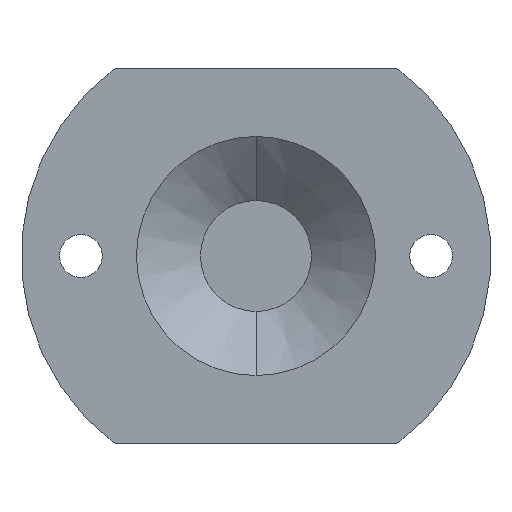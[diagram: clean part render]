
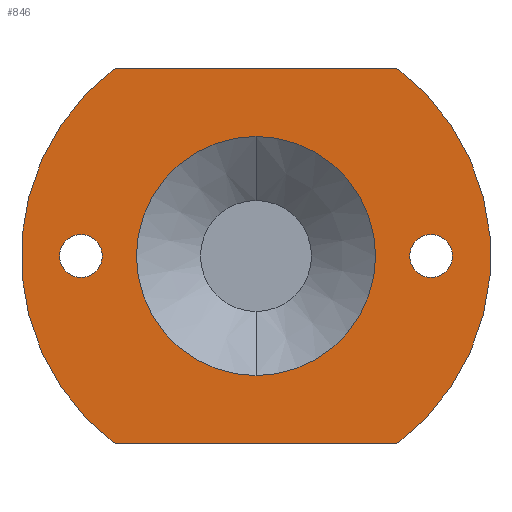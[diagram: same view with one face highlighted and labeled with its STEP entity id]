
A CAD part, front view. The second image highlights one B-rep face of the part: STEP entity #846.
In plain terms, the highlighted planar face has unit normal (0, -1, 0).
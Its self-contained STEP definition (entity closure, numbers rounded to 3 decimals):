
#1 = CIRCLE ( 'NONE', #5, 14. ) ;
#5 = AXIS2_PLACEMENT_3D ( 'NONE', #59, #622, #407 ) ;
#6 = DIRECTION ( 'NONE',  ( 0., 0., -1. ) ) ;
#12 = DIRECTION ( 'NONE',  ( 0., 0., -1. ) ) ;
#13 = CARTESIAN_POINT ( 'NONE',  ( -7.841, 0., -36.08 ) ) ;
#14 = CARTESIAN_POINT ( 'NONE',  ( -3.841, 0., -14.08 ) ) ;
#20 = DIRECTION ( 'NONE',  ( -1., 0., 0. ) ) ;
#28 = CARTESIAN_POINT ( 'NONE',  ( -7.841, 0., 7.92 ) ) ;
#32 = CARTESIAN_POINT ( 'NONE',  ( -40.841, 0., 7.92 ) ) ;
#33 = VERTEX_POINT ( 'NONE', #575 ) ;
#59 = CARTESIAN_POINT ( 'NONE',  ( -24.341, 0., -14.08 ) ) ;
#65 = CARTESIAN_POINT ( 'NONE',  ( -44.841, 0., -14.08 ) ) ;
#77 = DIRECTION ( 'NONE',  ( 0., 0., -1. ) ) ;
#99 = CARTESIAN_POINT ( 'NONE',  ( -24.341, 0., 7.92 ) ) ;
#100 = VERTEX_POINT ( 'NONE', #28 ) ;
#101 = CARTESIAN_POINT ( 'NONE',  ( -3.841, 0., -14.08 ) ) ;
#110 = FACE_OUTER_BOUND ( 'NONE', #112, .T. ) ;
#112 = EDGE_LOOP ( 'NONE', ( #480, #683, #613, #602 ) ) ;
#117 = DIRECTION ( 'NONE',  ( 0., 0., -1. ) ) ;
#119 = ORIENTED_EDGE ( 'NONE', *, *, #218, .T. ) ;
#123 = EDGE_CURVE ( 'NONE', #248, #843, #734, .T. ) ;
#132 = CARTESIAN_POINT ( 'NONE',  ( -40.841, 0., -36.08 ) ) ;
#170 = CIRCLE ( 'NONE', #653, 2.5 ) ;
#178 = ORIENTED_EDGE ( 'NONE', *, *, #831, .T. ) ;
#218 = EDGE_CURVE ( 'NONE', #422, #518, #328, .T. ) ;
#223 = CARTESIAN_POINT ( 'NONE',  ( -3.841, 0., -16.58 ) ) ;
#236 = CARTESIAN_POINT ( 'NONE',  ( -24.341, 0., -36.08 ) ) ;
#248 = VERTEX_POINT ( 'NONE', #550 ) ;
#251 = AXIS2_PLACEMENT_3D ( 'NONE', #534, #873, #117 ) ;
#260 = LINE ( 'NONE', #236, #385 ) ;
#261 = CARTESIAN_POINT ( 'NONE',  ( -44.841, 0., -14.08 ) ) ;
#262 = EDGE_CURVE ( 'NONE', #518, #422, #877, .T. ) ;
#275 = VERTEX_POINT ( 'NONE', #132 ) ;
#278 = CIRCLE ( 'NONE', #430, 27.5 ) ;
#283 = FACE_BOUND ( 'NONE', #438, .T. ) ;
#288 = CARTESIAN_POINT ( 'NONE',  ( -24.341, 0., -14.08 ) ) ;
#293 = DIRECTION ( 'NONE',  ( 0., -1., 0. ) ) ;
#328 = CIRCLE ( 'NONE', #339, 2.5 ) ;
#332 = EDGE_CURVE ( 'NONE', #843, #248, #1, .T. ) ;
#339 = AXIS2_PLACEMENT_3D ( 'NONE', #261, #486, #817 ) ;
#365 = CARTESIAN_POINT ( 'NONE',  ( -44.841, 0., -11.58 ) ) ;
#385 = VECTOR ( 'NONE', #865, 1000. ) ;
#390 = ORIENTED_EDGE ( 'NONE', *, *, #332, .T. ) ;
#407 = DIRECTION ( 'NONE',  ( 0., 0., -1. ) ) ;
#422 = VERTEX_POINT ( 'NONE', #764 ) ;
#430 = AXIS2_PLACEMENT_3D ( 'NONE', #657, #587, #851 ) ;
#438 = EDGE_LOOP ( 'NONE', ( #119, #690 ) ) ;
#439 = VERTEX_POINT ( 'NONE', #13 ) ;
#444 = DIRECTION ( 'NONE',  ( 0., 1., 0. ) ) ;
#445 = CIRCLE ( 'NONE', #827, 2.5 ) ;
#461 = AXIS2_PLACEMENT_3D ( 'NONE', #288, #771, #12 ) ;
#464 = EDGE_CURVE ( 'NONE', #557, #275, #847, .T. ) ;
#468 = EDGE_LOOP ( 'NONE', ( #689, #178 ) ) ;
#473 = FACE_BOUND ( 'NONE', #645, .T. ) ;
#480 = ORIENTED_EDGE ( 'NONE', *, *, #562, .T. ) ;
#486 = DIRECTION ( 'NONE',  ( 0., 1., 0. ) ) ;
#493 = CARTESIAN_POINT ( 'NONE',  ( -24.341, 0., -14.08 ) ) ;
#502 = EDGE_CURVE ( 'NONE', #608, #33, #445, .T. ) ;
#510 = AXIS2_PLACEMENT_3D ( 'NONE', #493, #293, #776 ) ;
#515 = EDGE_CURVE ( 'NONE', #100, #557, #791, .T. ) ;
#518 = VERTEX_POINT ( 'NONE', #365 ) ;
#534 = CARTESIAN_POINT ( 'NONE',  ( -24.341, 0., -14.08 ) ) ;
#550 = CARTESIAN_POINT ( 'NONE',  ( -24.341, 0., -0.08 ) ) ;
#554 = AXIS2_PLACEMENT_3D ( 'NONE', #65, #823, #6 ) ;
#557 = VERTEX_POINT ( 'NONE', #32 ) ;
#562 = EDGE_CURVE ( 'NONE', #439, #100, #278, .T. ) ;
#571 = PLANE ( 'NONE',  #510 ) ;
#575 = CARTESIAN_POINT ( 'NONE',  ( -3.841, 0., -11.58 ) ) ;
#577 = CARTESIAN_POINT ( 'NONE',  ( -24.341, 0., -28.08 ) ) ;
#587 = DIRECTION ( 'NONE',  ( 0., -1., 0. ) ) ;
#602 = ORIENTED_EDGE ( 'NONE', *, *, #882, .T. ) ;
#608 = VERTEX_POINT ( 'NONE', #223 ) ;
#613 = ORIENTED_EDGE ( 'NONE', *, *, #464, .T. ) ;
#617 = VECTOR ( 'NONE', #20, 1000. ) ;
#622 = DIRECTION ( 'NONE',  ( 0., 1., 0. ) ) ;
#645 = EDGE_LOOP ( 'NONE', ( #390, #876 ) ) ;
#653 = AXIS2_PLACEMENT_3D ( 'NONE', #14, #711, #77 ) ;
#657 = CARTESIAN_POINT ( 'NONE',  ( -24.341, 0., -14.08 ) ) ;
#683 = ORIENTED_EDGE ( 'NONE', *, *, #515, .T. ) ;
#689 = ORIENTED_EDGE ( 'NONE', *, *, #502, .T. ) ;
#690 = ORIENTED_EDGE ( 'NONE', *, *, #262, .T. ) ;
#711 = DIRECTION ( 'NONE',  ( 0., 1., 0. ) ) ;
#734 = CIRCLE ( 'NONE', #251, 14. ) ;
#764 = CARTESIAN_POINT ( 'NONE',  ( -44.841, 0., -16.58 ) ) ;
#771 = DIRECTION ( 'NONE',  ( 0., -1., 0. ) ) ;
#776 = DIRECTION ( 'NONE',  ( 0., 0., -1. ) ) ;
#788 = DIRECTION ( 'NONE',  ( 0., 0., -1. ) ) ;
#791 = LINE ( 'NONE', #99, #617 ) ;
#814 = FACE_BOUND ( 'NONE', #468, .T. ) ;
#817 = DIRECTION ( 'NONE',  ( 0., 0., -1. ) ) ;
#823 = DIRECTION ( 'NONE',  ( 0., 1., 0. ) ) ;
#827 = AXIS2_PLACEMENT_3D ( 'NONE', #101, #444, #788 ) ;
#831 = EDGE_CURVE ( 'NONE', #33, #608, #170, .T. ) ;
#843 = VERTEX_POINT ( 'NONE', #577 ) ;
#846 = ADVANCED_FACE ( 'NONE', ( #473, #283, #110, #814 ), #571, .T. ) ;
#847 = CIRCLE ( 'NONE', #461, 27.5 ) ;
#851 = DIRECTION ( 'NONE',  ( 0., 0., -1. ) ) ;
#865 = DIRECTION ( 'NONE',  ( 1., 0., 0. ) ) ;
#873 = DIRECTION ( 'NONE',  ( 0., 1., 0. ) ) ;
#876 = ORIENTED_EDGE ( 'NONE', *, *, #123, .T. ) ;
#877 = CIRCLE ( 'NONE', #554, 2.5 ) ;
#882 = EDGE_CURVE ( 'NONE', #275, #439, #260, .T. ) ;
